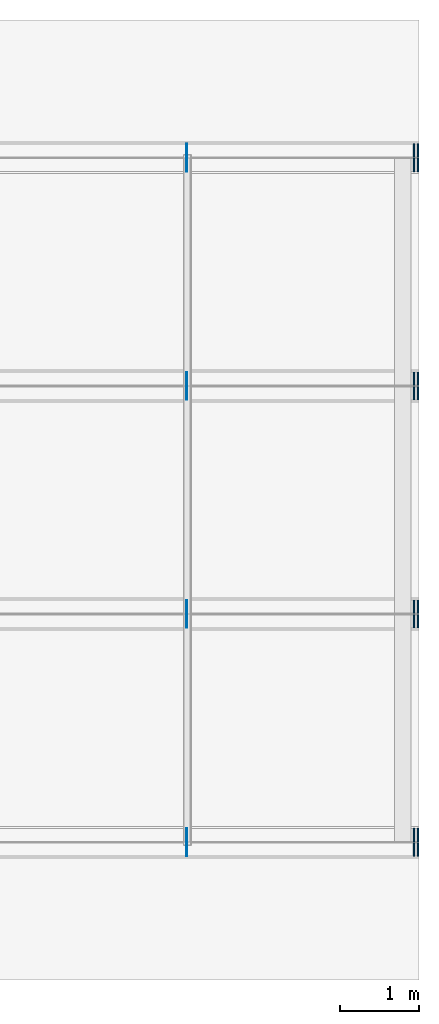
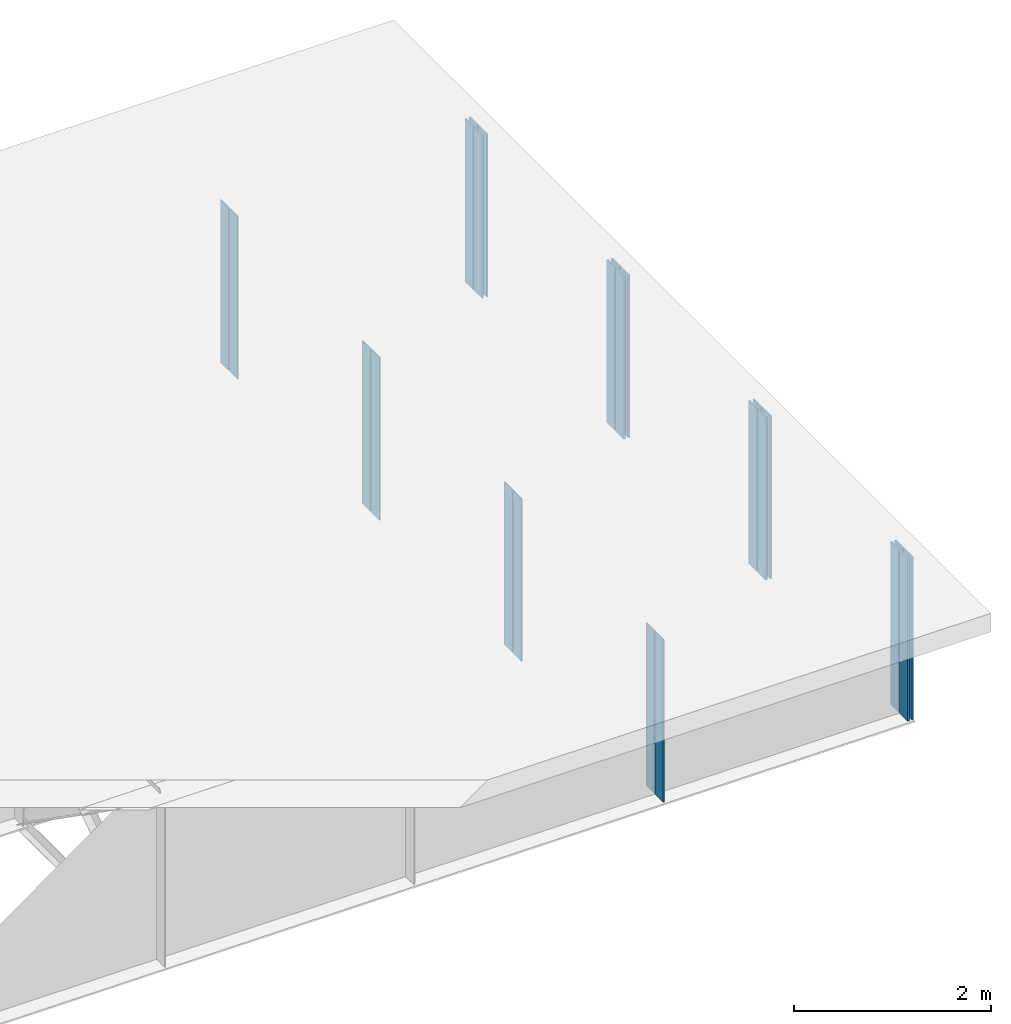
# One storey, part 13 of 13: 24 plates.
"""IFC4 building model written with IfcOpenShell, lengths in metres."""

from ifc_helpers import new_model, si_unit, frame, origin, origin_with_axes, origin_2d_with_axis, place, context, subcontext, project, spatial, rectangle, extrude, element, save


model = new_model("IFC4")

# Units and contexts
model_context = context("Model", 3, precision=1e-05, world=origin())
body_context = subcontext(model_context, "Body", "Model", "MODEL_VIEW")
ifc_project = project(units=[si_unit("LENGTHUNIT", "METRE"), si_unit("AREAUNIT", "SQUARE_METRE"), si_unit("VOLUMEUNIT", "CUBIC_METRE"), si_unit("PLANEANGLEUNIT", "RADIAN")], contexts=[model_context])

# Site, building, storey
site_placement = place(None, origin_with_axes())
site = spatial("IfcSite", under=ifc_project, at=site_placement, Name="Default Site")
building_placement = place(site_placement, origin_with_axes())
building = spatial("IfcBuilding", under=site, at=building_placement, Name="Bridge Structure")
storey_placement = place(building_placement, origin_with_axes())
storey = spatial("IfcBuildingStorey", under=building, at=storey_placement, Name="Superstructure")

# Plates
for number, where, z_axis, x_axis, name in (
    (1, (32.076, -4.2215, -1.006), (0.0, 0.0, 1.0), (1.0, 0.0, 0.0), "Intermediate Stiffener 1"),
    (2, (32.076, -4.4035, -1.006), (0.0, 0.0, 1.0), (1.0, 0.0, 0.0), "Intermediate Stiffener 1"),
):
    element("IfcPlate", number, at=place(storey_placement, frame(where, z_axis=z_axis, x_axis=x_axis)), inside=storey, Name=name, context=body_context, shape_type="SweptSolid", body=[
        extrude(rectangle(XDim=0.012, YDim=0.168, at=origin_2d_with_axis()), origin_with_axes(), (0.0, 0.0, 1.0), 2.012),
    ])
for number, where, z_axis, x_axis, name in (
    (3, (34.99, -4.2215, -1.006), (0.0, 0.0, 1.0), (1.0, 0.0, 0.0), "End Stiffener 1"),
    (4, (34.99, -4.4035, -1.006), (0.0, 0.0, 1.0), (1.0, 0.0, 0.0), "End Stiffener 1"),
    (5, (34.94, -4.2215, -1.006), (0.0, 0.0, 1.0), (1.0, 0.0, 0.0), "End Stiffener 1"),
    (6, (34.94, -4.4035, -1.006), (0.0, 0.0, 1.0), (1.0, 0.0, 0.0), "End Stiffener 1"),
):
    element("IfcPlate", number, at=place(storey_placement, frame(where, z_axis=z_axis, x_axis=x_axis)), inside=storey, Name=name, context=body_context, shape_type="SweptSolid", body=[
        extrude(rectangle(XDim=0.02, YDim=0.168, at=origin_2d_with_axis()), origin_with_axes(), (0.0, 0.0, 1.0), 2.012),
    ])
for number, where, z_axis, x_axis, name in (
    (7, (32.076, -1.3465, -1.006), (0.0, 0.0, 1.0), (1.0, 0.0, 0.0), "Intermediate Stiffener 2"),
    (8, (32.076, -1.5285, -1.006), (0.0, 0.0, 1.0), (1.0, 0.0, 0.0), "Intermediate Stiffener 2"),
):
    element("IfcPlate", number, at=place(storey_placement, frame(where, z_axis=z_axis, x_axis=x_axis)), inside=storey, Name=name, context=body_context, shape_type="SweptSolid", body=[
        extrude(rectangle(XDim=0.012, YDim=0.168, at=origin_2d_with_axis()), origin_with_axes(), (0.0, 0.0, 1.0), 2.012),
    ])
for number, where, z_axis, x_axis, name in (
    (9, (34.99, -1.3465, -1.006), (0.0, 0.0, 1.0), (1.0, 0.0, 0.0), "End Stiffener 2"),
    (10, (34.99, -1.5285, -1.006), (0.0, 0.0, 1.0), (1.0, 0.0, 0.0), "End Stiffener 2"),
    (11, (34.94, -1.3465, -1.006), (0.0, 0.0, 1.0), (1.0, 0.0, 0.0), "End Stiffener 2"),
    (12, (34.94, -1.5285, -1.006), (0.0, 0.0, 1.0), (1.0, 0.0, 0.0), "End Stiffener 2"),
):
    element("IfcPlate", number, at=place(storey_placement, frame(where, z_axis=z_axis, x_axis=x_axis)), inside=storey, Name=name, context=body_context, shape_type="SweptSolid", body=[
        extrude(rectangle(XDim=0.02, YDim=0.168, at=origin_2d_with_axis()), origin_with_axes(), (0.0, 0.0, 1.0), 2.012),
    ])
for number, where, z_axis, x_axis, name in (
    (13, (32.076, 1.5285, -1.006), (0.0, 0.0, 1.0), (1.0, 0.0, 0.0), "Intermediate Stiffener 3"),
    (14, (32.076, 1.3465, -1.006), (0.0, 0.0, 1.0), (1.0, 0.0, 0.0), "Intermediate Stiffener 3"),
):
    element("IfcPlate", number, at=place(storey_placement, frame(where, z_axis=z_axis, x_axis=x_axis)), inside=storey, Name=name, context=body_context, shape_type="SweptSolid", body=[
        extrude(rectangle(XDim=0.012, YDim=0.168, at=origin_2d_with_axis()), origin_with_axes(), (0.0, 0.0, 1.0), 2.012),
    ])
for number, where, z_axis, x_axis, name in (
    (15, (34.99, 1.5285, -1.006), (0.0, 0.0, 1.0), (1.0, 0.0, 0.0), "End Stiffener 3"),
    (16, (34.99, 1.3465, -1.006), (0.0, 0.0, 1.0), (1.0, 0.0, 0.0), "End Stiffener 3"),
    (17, (34.94, 1.5285, -1.006), (0.0, 0.0, 1.0), (1.0, 0.0, 0.0), "End Stiffener 3"),
    (18, (34.94, 1.3465, -1.006), (0.0, 0.0, 1.0), (1.0, 0.0, 0.0), "End Stiffener 3"),
):
    element("IfcPlate", number, at=place(storey_placement, frame(where, z_axis=z_axis, x_axis=x_axis)), inside=storey, Name=name, context=body_context, shape_type="SweptSolid", body=[
        extrude(rectangle(XDim=0.02, YDim=0.168, at=origin_2d_with_axis()), origin_with_axes(), (0.0, 0.0, 1.0), 2.012),
    ])
for number, where, z_axis, x_axis, name in (
    (19, (32.076, 4.4035, -1.006), (0.0, 0.0, 1.0), (1.0, 0.0, 0.0), "Intermediate Stiffener 4"),
    (20, (32.076, 4.2215, -1.006), (0.0, 0.0, 1.0), (1.0, 0.0, 0.0), "Intermediate Stiffener 4"),
):
    element("IfcPlate", number, at=place(storey_placement, frame(where, z_axis=z_axis, x_axis=x_axis)), inside=storey, Name=name, context=body_context, shape_type="SweptSolid", body=[
        extrude(rectangle(XDim=0.012, YDim=0.168, at=origin_2d_with_axis()), origin_with_axes(), (0.0, 0.0, 1.0), 2.012),
    ])
for number, where, z_axis, x_axis, name in (
    (21, (34.99, 4.4035, -1.006), (0.0, 0.0, 1.0), (1.0, 0.0, 0.0), "End Stiffener 4"),
    (22, (34.99, 4.2215, -1.006), (0.0, 0.0, 1.0), (1.0, 0.0, 0.0), "End Stiffener 4"),
    (23, (34.94, 4.4035, -1.006), (0.0, 0.0, 1.0), (1.0, 0.0, 0.0), "End Stiffener 4"),
    (24, (34.94, 4.2215, -1.006), (0.0, 0.0, 1.0), (1.0, 0.0, 0.0), "End Stiffener 4"),
):
    element("IfcPlate", number, at=place(storey_placement, frame(where, z_axis=z_axis, x_axis=x_axis)), inside=storey, Name=name, context=body_context, shape_type="SweptSolid", body=[
        extrude(rectangle(XDim=0.02, YDim=0.168, at=origin_2d_with_axis()), origin_with_axes(), (0.0, 0.0, 1.0), 2.012),
    ])

save(model, "model.ifc")
